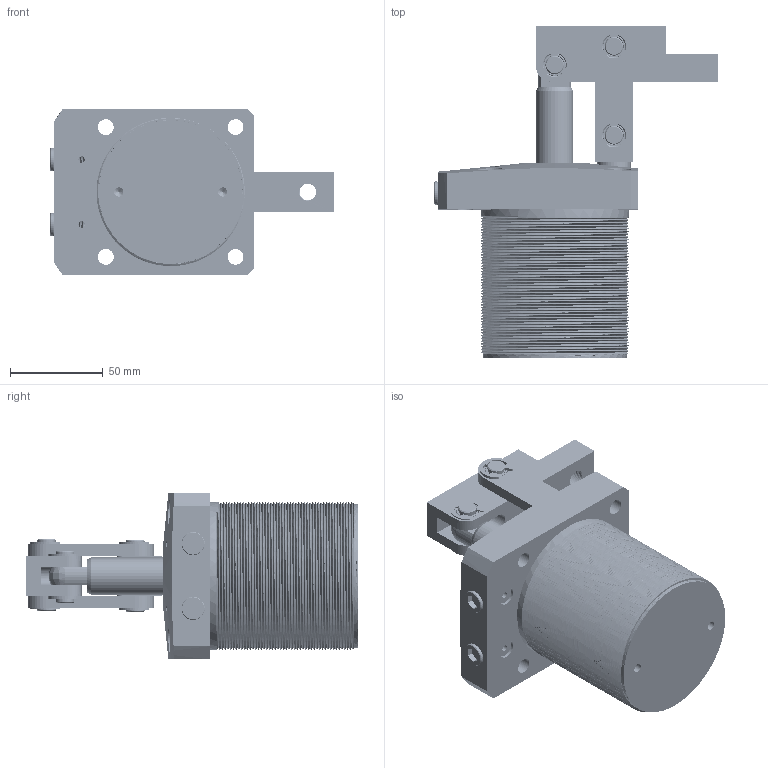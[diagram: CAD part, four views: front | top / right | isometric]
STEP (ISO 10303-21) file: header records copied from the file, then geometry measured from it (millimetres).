
FILE_DESCRIPTION (( 'STEP AP214' ), '1' );
FILE_NAME ('LHC01D-63.STEP', '2019-04-20T01:04:50', ( '' ), ( '' ), 'SwSTEP 2.0', 'SolidWorks 2016', '' );
FILE_SCHEMA (( 'AUTOMOTIVE_DESIGN' ));
Length unit declared in the file: millimetre
Products named in the file (12): M4ningjin_8; CPLCU-50-08_3; CPLCU-63-04; LHC01D-63-07; CPLCU-63-02; CPLCU-63-03; CPLCU-63-05; CPLCU-63-01; LHC01D-63-01; LHC01D-63; LHC01D63掛极; 黑芛_13
Assembly tree (25 placements, depth 2):
  LHC01D-63
    LHC01D-63-01
    CPLCU-63-01
    CPLCU-63-05
    CPLCU-63-03
    CPLCU-63-02  x2
    LHC01D-63-07  x6
    CPLCU-63-04  x2
    CPLCU-50-08_3  x6
    M4ningjin_8  x2
    黑芛_13  x2
    LHC01D63掛极
Bounding box: 153 x 179 x 90 mm (x, y, z)
Volume: 589459.4 mm3; surface area: 142084 mm2
Topology: 27 solids, 27 shells, 1625 faces, 5568 edges, 4018 vertices
Faces by surface type: cylinder 972, bspline 267, plane 203, cone 179, torus 4
Entity records: 215629 total; most frequent: CARTESIAN_POINT 181145, ORIENTED_EDGE 9568, EDGE_CURVE 4784, DIRECTION 3604, B_SPLINE_CURVE_WITH_KNOTS 3542, VERTEX_POINT 3514, EDGE_LOOP 1384, AXIS2_PLACEMENT_3D 1317
